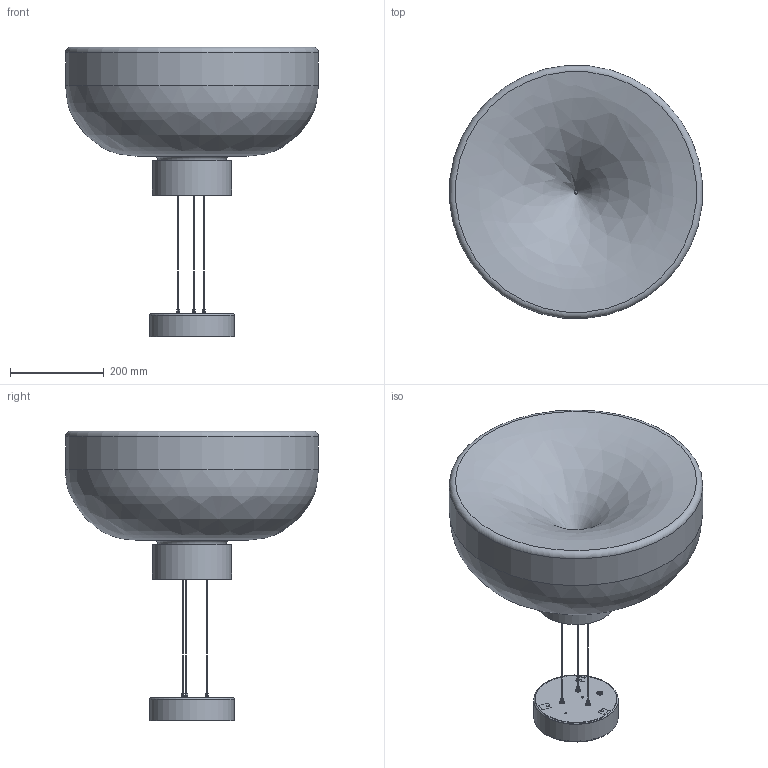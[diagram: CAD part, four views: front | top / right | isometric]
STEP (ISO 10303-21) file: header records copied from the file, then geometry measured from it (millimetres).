
FILE_DESCRIPTION(/* description */ ('AELLA SOSPENSIONE - S54'),/* implementation_level */ '2;1');
FILE_NAME(/* name */ '00500MC1LD1 - AELLA S54 COLLO BASSO - SEMPLIFICATA.stp',/* time_stamp */ '2023-05-03T13:08:44+02:00',/* author */ ('davide.turci'),/* organization */ (''),/* preprocessor_version */ 'ST-DEVELOPER v19.2',/* originating_system */ 'Autodesk Inventor 2023',/* authorisation */ '');
FILE_SCHEMA (('AUTOMOTIVE_DESIGN { 1 0 10303 214 3 1 1 }'));
Length unit declared in the file: millimetre
Products named in the file (28): 00500MC1LD1; 00500V004-A; 00500C001-02; 00500C202; DISSIPATORE MODULED 9920-B MECHATRONIX; VITE TC AUTOFIL M2,9X9,5 ZN UNI6954AB DIN7981C; K001; 00500C227; 00500C007; B002; B001; GRANO STEAB 5408-4-10-011 M7X1 NEUTRO; 00500C223; 00500C223_1; DISTANZIALE PRESSIONE M3 H8 FIL. PASS. TIPO SPECIALINSERT DP08 1 030 
12; DISTANZIALE PRESSIONE M4 H.6 FIL. PASS. TIPO SPECIALINSERT DP06 0 040.
12; ASM-ROS-01; PIA-ROS-01; COP-ROS-01; GRIPPER M10X1+CILINDRETTO SICUREZZA NICHEL; DADO M10X1 H3 M.00.52.11 ELETTROLAMPART; NIPPLO M10X1 STEAB 5016-3-7-011 NEUTRO; CAVO ACC. INOX 1X49 L 3500MM + FIN D.3X3; 00500C115; DISTANZIATORE STEAB 5229-10; VITE TESTA CILINDRICA STEAB 5074-05 M3X0,5 H6; K002; PASSACAVI STEAB 5284-0-0 POLIET.NEUTRO
Assembly tree (47 placements, depth 3):
  00500MC1LD1
    00500V004-A
    00500C001-02
    00500C202
      DISSIPATORE MODULED 9920-B MECHATRONIX
      VITE TC AUTOFIL M2,9X9,5 ZN UNI6954AB DIN7981C  x2
      K001
      00500C227
      B002
      B001
      GRANO STEAB 5408-4-10-011 M7X1 NEUTRO
    00500C007
    B002
    B001
    GRANO STEAB 5408-4-10-011 M7X1 NEUTRO
    00500C223
      00500C223_1
      DISTANZIALE PRESSIONE M3 H8 FIL. PASS. TIPO SPECIALINSERT DP08 1 030 
12  x2
      DISTANZIALE PRESSIONE M4 H.6 FIL. PASS. TIPO SPECIALINSERT DP06 0 040.
12  x3
    ASM-ROS-01
      PIA-ROS-01
      COP-ROS-01
      GRIPPER M10X1+CILINDRETTO SICUREZZA NICHEL  x3
      DADO M10X1 H3 M.00.52.11 ELETTROLAMPART  x3
      NIPPLO M10X1 STEAB 5016-3-7-011 NEUTRO
    CAVO ACC. INOX 1X49 L 3500MM + FIN D.3X3  x3
    00500C115  x3
    DISTANZIATORE STEAB 5229-10  x3
    VITE TESTA CILINDRICA STEAB 5074-05 M3X0,5 H6  x2
    K002
    PASSACAVI STEAB 5284-0-0 POLIET.NEUTRO  x3
Bounding box: 538.39 x 538.39 x 616.98 mm (x, y, z)
Volume: 4792128.2 mm3; surface area: 1820210.6 mm2
Topology: 47 solids, 47 shells, 2236 faces, 5598 edges, 3619 vertices
Faces by surface type: plane 1181, cylinder 863, cone 109, torus 71, sphere 8, bspline 4
Full cylindrical faces by diameter (mm): 1 x3, 1.5 x3, 2 x6, 2.459 x2, 2.9 x2, 3 x13, 3.3 x3, 3.5 x8, 4 x17, 4.5 x4, 5 x6, 5.38 x2, 5.4 x2, 5.5 x2, 5.917 x2, 6 x6, 6.2 x3, 6.5 x3, 7 x5, 7.11 x3, 7.2 x3, 8 x3, 9 x5, 10 x12, 10.5 x2, 12 x6, 13 x3, 106 x1, 132.5 x1, 145 x1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
Entity records: 56665 total; most frequent: CARTESIAN_POINT 10129, DIRECTION 9840, ORIENTED_EDGE 8974, EDGE_CURVE 4487, AXIS2_PLACEMENT_3D 3624, VERTEX_POINT 2898, LINE 2592, VECTOR 2592
